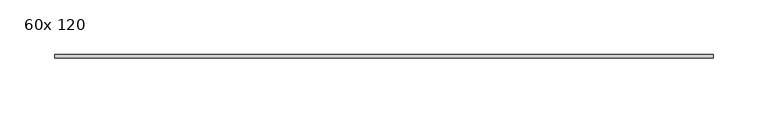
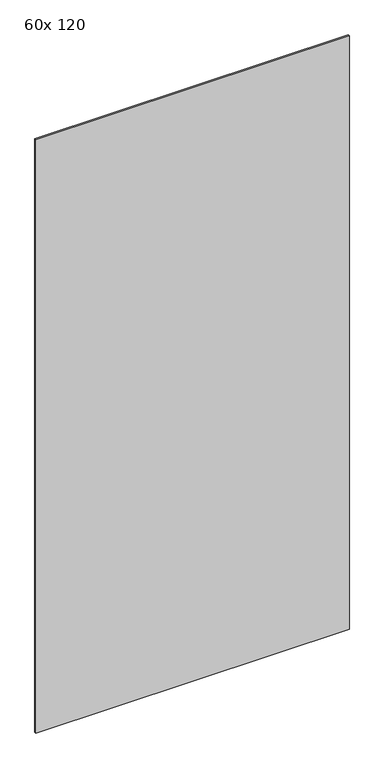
"""IFC4 building model written with IfcOpenShell, lengths in millimetres: flow terminal geometry, ESPEJO RECTANGULAR : 60x 120."""

from ifc_helpers import new_model, si_unit, frame, origin, place, context, project, spatial, polyline, outline, extrude, source, transform, mapped, element, save


def flow_terminal_60x_120_5cc20310(model_context):
    return source(origin(), model_context, "Body", "SweptSolid", [
        extrude(outline(polyline([(300.0, 11.35), (-300.0, 11.35), (-300.0, 14.525), (300.0, 14.525), (300.0, 11.35)])), frame((0.0, 0.0, 600.0), z_axis=(0.0, 0.0, 1.0), x_axis=(1.0, 0.0, 0.0)), (0.0, 0.0, 1.0), 1200.0),
    ])


if __name__ == "__main__":
    model = new_model("IFC4")
    model_context = context("Model", 3, world=origin())
    ifc_project = project(units=[si_unit("LENGTHUNIT", "METRE", prefix="MILLI")], contexts=[model_context])
    site = spatial("IfcSite", under=ifc_project)
    building = spatial("IfcBuilding", under=site)
    placement = place(None, origin())
    flow_terminal_60x_120_shape = flow_terminal_60x_120_5cc20310(model_context)
    element("IfcFlowTerminal", 1, ObjectType="ESPEJO RECTANGULAR : 60x 120", at=placement, inside=building, context=model_context, shape_type="MappedRepresentation", body=[
        mapped(flow_terminal_60x_120_shape, transform((0.0, 0.0, 0.0), x_axis=(1.0, 0.0, 0.0), y_axis=(0.0, 1.0, 0.0), z_axis=(0.0, 0.0, 1.0))),
    ])
    save(model, "model.ifc")
